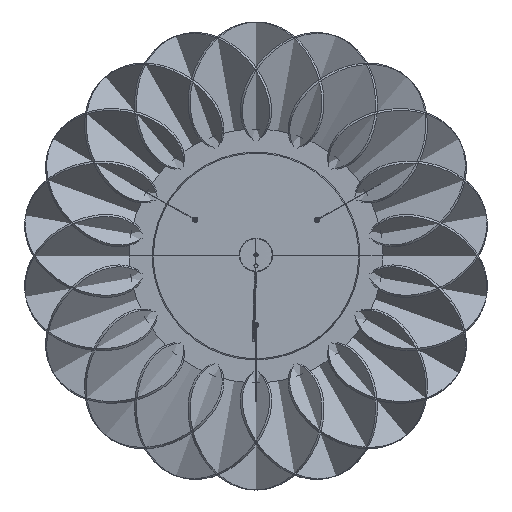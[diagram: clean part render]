
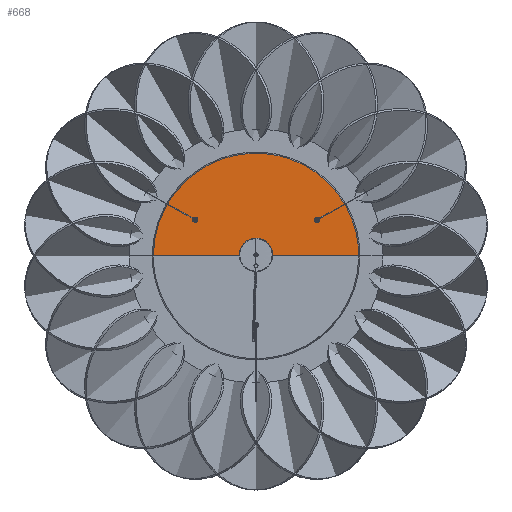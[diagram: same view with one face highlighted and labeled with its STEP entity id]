
A CAD part, top view. The second image highlights one B-rep face of the part: STEP entity #668.
In plain terms, the highlighted planar face has unit normal (0, 0, 1).
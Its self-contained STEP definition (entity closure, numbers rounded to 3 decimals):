
#112=(
BOUNDED_CURVE()
B_SPLINE_CURVE(2,(#22599,#22600,#22601,#22602,#22603),.UNSPECIFIED.,.F.,
 .F.)
B_SPLINE_CURVE_WITH_KNOTS((3,2,3),(1193.018,1789.527,2386.036),
 .UNSPECIFIED.)
CURVE()
GEOMETRIC_REPRESENTATION_ITEM()
RATIONAL_B_SPLINE_CURVE((1.,0.707,1.,0.707,1.))
REPRESENTATION_ITEM('')
);
#668=ADVANCED_FACE('',(#981),#3853,.T.);
#981=FACE_OUTER_BOUND('',#1294,.T.);
#1294=EDGE_LOOP('',(#1942,#1943,#1944));
#1942=ORIENTED_EDGE('',*,*,#2803,.T.);
#1943=ORIENTED_EDGE('',*,*,#2819,.F.);
#1944=ORIENTED_EDGE('',*,*,#2818,.F.);
#2803=EDGE_CURVE('',#3562,#3569,#3356,.T.);
#2818=EDGE_CURVE('',#3562,#3571,#3364,.T.);
#2819=EDGE_CURVE('',#3571,#3569,#112,.T.);
#3356=B_SPLINE_CURVE_WITH_KNOTS('',1,(#22546,#22547),.UNSPECIFIED.,.F.,
 .F.,(2,2),(0.,307.204),.UNSPECIFIED.);
#3364=B_SPLINE_CURVE_WITH_KNOTS('',1,(#22597,#22598),.UNSPECIFIED.,.F.,
 .F.,(2,2),(0.,307.204),.UNSPECIFIED.);
#3562=VERTEX_POINT('',#22532);
#3569=VERTEX_POINT('',#22539);
#3571=VERTEX_POINT('',#22541);
#3853=PLANE('',#4153);
#4153=AXIS2_PLACEMENT_3D('',#22481,#4364,$);
#4364=DIRECTION('',(0.,0.,1.));
#22481=CARTESIAN_POINT('',(1450.647,0.,380.915));
#22532=CARTESIAN_POINT('',(1450.647,0.,380.915));
#22539=CARTESIAN_POINT('',(1757.851,0.,380.915));
#22541=CARTESIAN_POINT('',(1143.442,0.,380.915));
#22546=CARTESIAN_POINT('',(1450.647,0.,380.915));
#22547=CARTESIAN_POINT('',(1757.851,0.,380.915));
#22597=CARTESIAN_POINT('',(1450.647,0.,380.915));
#22598=CARTESIAN_POINT('',(1143.442,0.,380.915));
#22599=CARTESIAN_POINT('',(1143.442,0.,380.915));
#22600=CARTESIAN_POINT('',(1143.442,307.204,380.915));
#22601=CARTESIAN_POINT('',(1450.647,307.204,380.915));
#22602=CARTESIAN_POINT('',(1757.851,307.204,380.915));
#22603=CARTESIAN_POINT('',(1757.851,0.,380.915));
